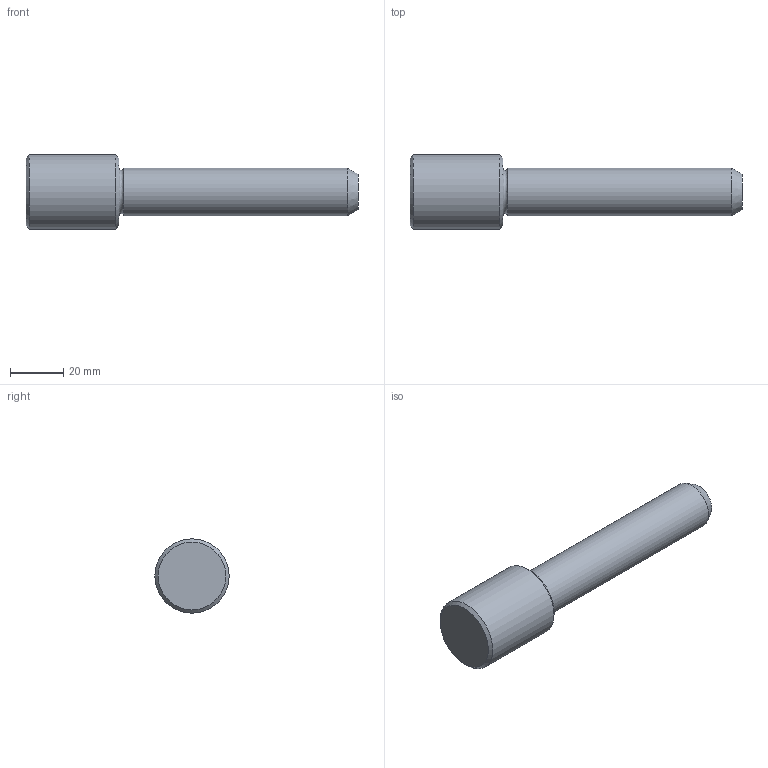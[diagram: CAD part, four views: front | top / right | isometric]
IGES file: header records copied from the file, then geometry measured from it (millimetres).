
Global section: file name: C318125.ipt; native system: Autodesk Inventor 2021; preprocessor: unknown; author: SM; date: 20211221.120834; units: millimetre
Bounding box: 125 x 28 x 28 mm (x, y, z)
Volume: 44037.7 mm3; surface area: 9210 mm2
Topology: 1 solids, 1 shells, 9 faces, 16 edges, 10 vertices
Faces by surface type: cone 3, plane 3, cylinder 2, revolution 1
Full cylindrical faces by diameter (mm): 18 x1, 28 x1
